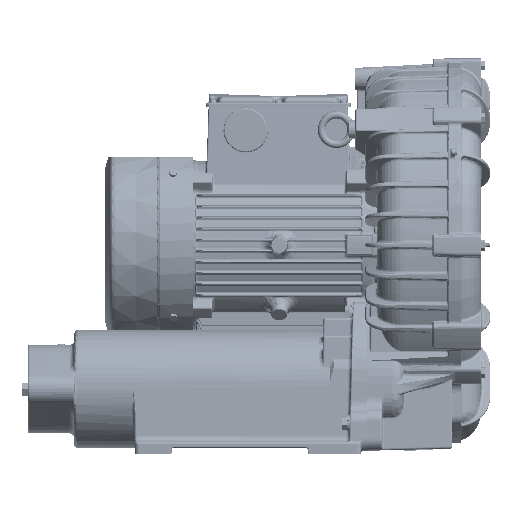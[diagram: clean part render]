
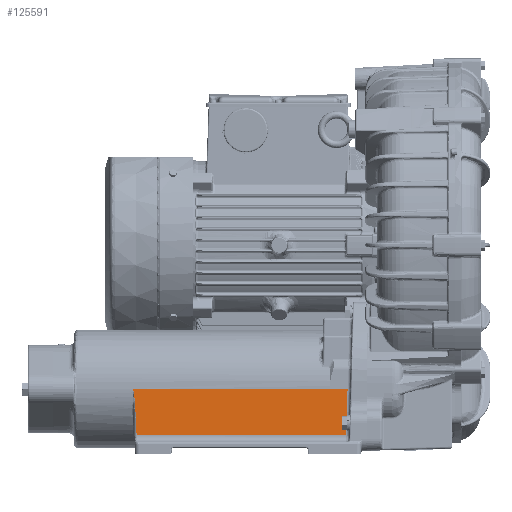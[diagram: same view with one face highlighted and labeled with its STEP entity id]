
A CAD part, left-side view. The second image highlights one B-rep face of the part: STEP entity #125591.
In plain terms, the highlighted planar face has unit normal (-1, 0, 0.026).
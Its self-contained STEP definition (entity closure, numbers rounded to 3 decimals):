
#11328=B_SPLINE_CURVE_WITH_KNOTS('',3,(#408087,#408088,#408089,#408090,
#408091,#408092,#408093,#408094,#408095,#408096),.UNSPECIFIED.,.F.,.F.,
(4,1,1,1,1,1,1,4),(5.908,6.811,8.617,9.52,
9.972,10.423,11.326,12.23),
 .UNSPECIFIED.);
#15306=LINE('',#406639,#18945);
#15342=LINE('',#408104,#18981);
#15343=LINE('',#408105,#18982);
#18945=VECTOR('',#160889,289.782);
#18981=VECTOR('',#161043,283.607);
#18982=VECTOR('',#161044,62.779);
#24110=PLANE('',#136847);
#31723=FACE_OUTER_BOUND('',#39919,.T.);
#39919=EDGE_LOOP('',(#108452,#108453,#108454,#108455));
#57638=VERTEX_POINT('',#406636);
#57639=VERTEX_POINT('',#406638);
#57719=VERTEX_POINT('',#408079);
#57720=VERTEX_POINT('',#408103);
#74832=EDGE_CURVE('',#57638,#57639,#15306,.T.);
#74945=EDGE_CURVE('',#57719,#57638,#11328,.T.);
#74947=EDGE_CURVE('',#57720,#57719,#15342,.T.);
#74948=EDGE_CURVE('',#57720,#57639,#15343,.T.);
#108452=ORIENTED_EDGE('',*,*,#74945,.F.);
#108453=ORIENTED_EDGE('',*,*,#74947,.F.);
#108454=ORIENTED_EDGE('',*,*,#74948,.T.);
#108455=ORIENTED_EDGE('',*,*,#74832,.F.);
#125591=ADVANCED_FACE('',(#31723),#24110,.T.);
#136847=AXIS2_PLACEMENT_3D('',#408102,#161041,#161042);
#160889=DIRECTION('',(0.,-1.,0.));
#161041=DIRECTION('center_axis',(-1.,0.,0.026));
#161042=DIRECTION('ref_axis',(-0.026,0.,-1.));
#161043=DIRECTION('',(0.,1.,0.));
#161044=DIRECTION('',(0.026,-0.026,0.999));
#406636=CARTESIAN_POINT('',(-180.,316.402,0.));
#406638=CARTESIAN_POINT('',(-180.,26.62,0.));
#406639=CARTESIAN_POINT('',(-180.,316.402,0.));
#408079=CARTESIAN_POINT('',(-181.643,311.868,-62.736));
#408087=CARTESIAN_POINT('Ctrl Pts',(-181.643,311.868,
-62.736));
#408088=CARTESIAN_POINT('Ctrl Pts',(-181.564,311.947,
-59.723));
#408089=CARTESIAN_POINT('Ctrl Pts',(-181.328,312.19,
-50.701));
#408090=CARTESIAN_POINT('Ctrl Pts',(-181.013,312.494,
-38.668));
#408091=CARTESIAN_POINT('Ctrl Pts',(-180.737,312.802,
-28.137));
#408092=CARTESIAN_POINT('Ctrl Pts',(-180.579,313.1,
-22.129));
#408093=CARTESIAN_POINT('Ctrl Pts',(-180.423,313.729,
-16.14));
#408094=CARTESIAN_POINT('Ctrl Pts',(-180.235,315.465,
-8.958));
#408095=CARTESIAN_POINT('Ctrl Pts',(-180.079,316.323,
-3.021));
#408096=CARTESIAN_POINT('Ctrl Pts',(-180.,316.402,0.));
#408102=CARTESIAN_POINT('Origin',(-180.,14.67,0.));
#408103=CARTESIAN_POINT('',(-181.643,28.261,-62.736));
#408104=CARTESIAN_POINT('',(-181.643,28.261,-62.736));
#408105=CARTESIAN_POINT('',(-181.643,28.261,-62.736));
